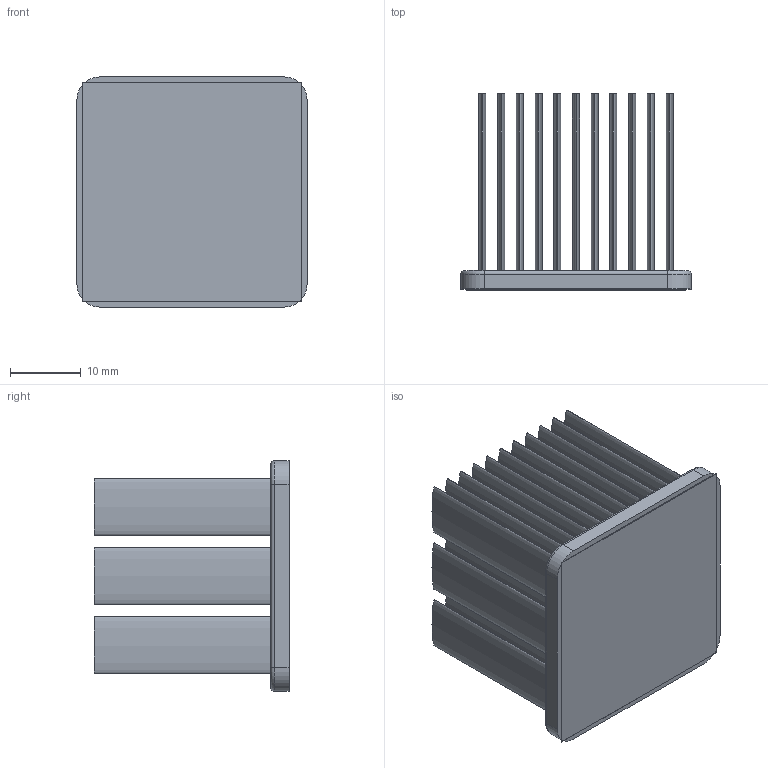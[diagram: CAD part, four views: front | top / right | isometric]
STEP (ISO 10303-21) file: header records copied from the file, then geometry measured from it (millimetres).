
FILE_DESCRIPTION (( 'STEP AP214' ), '1' );
FILE_NAME ('INM33001-28W-2.6.STEP', '2023-02-20T19:09:23', ( '' ), ( '' ), 'SwSTEP 2.0', 'SolidWorks 2020', '' );
FILE_SCHEMA (( 'AUTOMOTIVE_DESIGN' ));
Length unit declared in the file: inch
Products named in the file (1): INM33001-28W-2.6
Bounding box: 32.6 x 27.73 x 32.6 mm (x, y, z)
Volume: 8037.9 mm3; surface area: 17848.9 mm2
Topology: 2 solids, 2 shells, 123 faces, 250 edges, 164 vertices
Faces by surface type: bspline 66, plane 45, cylinder 8, torus 4
Entity records: 5008 total; most frequent: CARTESIAN_POINT 1396, ORIENTED_EDGE 500, DIRECTION 254, EDGE_CURVE 250, VERTEX_POINT 164, EDGE_LOOP 156, LENGTH_MEASURE_WITH_UNIT 127, DIMENSIONAL_EXPONENTS 127
